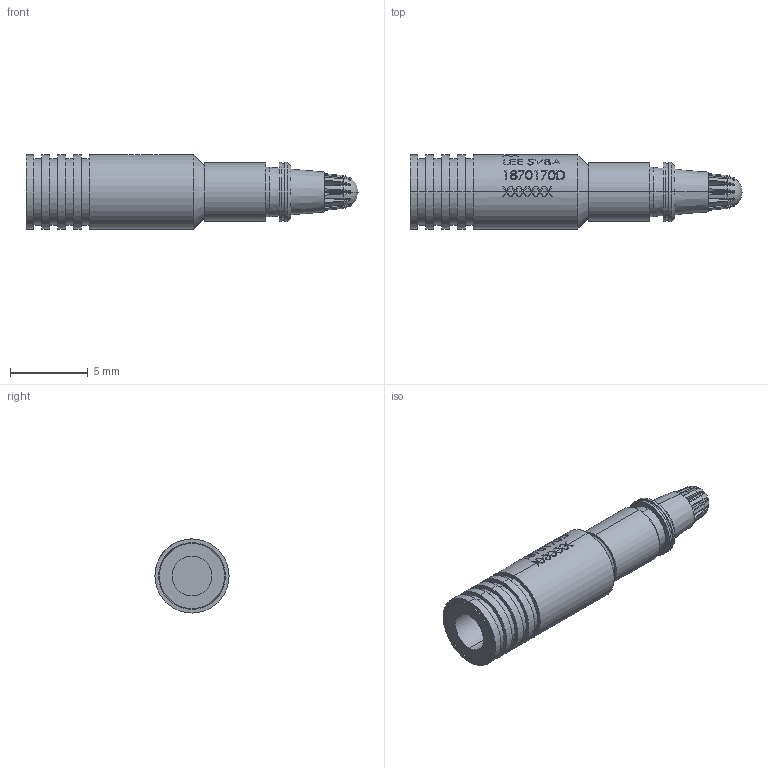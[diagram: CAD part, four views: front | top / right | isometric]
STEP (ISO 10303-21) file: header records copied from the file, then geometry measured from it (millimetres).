
FILE_DESCRIPTION (( 'STEP AP214' ), '1' );
FILE_NAME ('3DSVBA1870170D.STEP', '2021-04-01T12:07:38', ( '' ), ( '' ), 'SwSTEP 2.0', 'SolidWorks 2019', '' );
FILE_SCHEMA (( 'AUTOMOTIVE_DESIGN' ));
Length unit declared in the file: inch
Products named in the file (1): 3DSVBA1870170D
Bounding box: 21.34 x 4.76 x 4.76 mm (x, y, z)
Volume: 248 mm3; surface area: 387.9 mm2
Topology: 2 solids, 2 shells, 459 faces, 1187 edges, 773 vertices
Faces by surface type: bspline 198, plane 144, cylinder 69, torus 24, cone 22, sphere 2
Entity records: 22580 total; most frequent: CARTESIAN_POINT 9310, ORIENTED_EDGE 2374, DIRECTION 1352, EDGE_CURVE 1187, VERTEX_POINT 773, B_SPLINE_CURVE_WITH_KNOTS 621, AXIS2_PLACEMENT_3D 524, EDGE_LOOP 500
